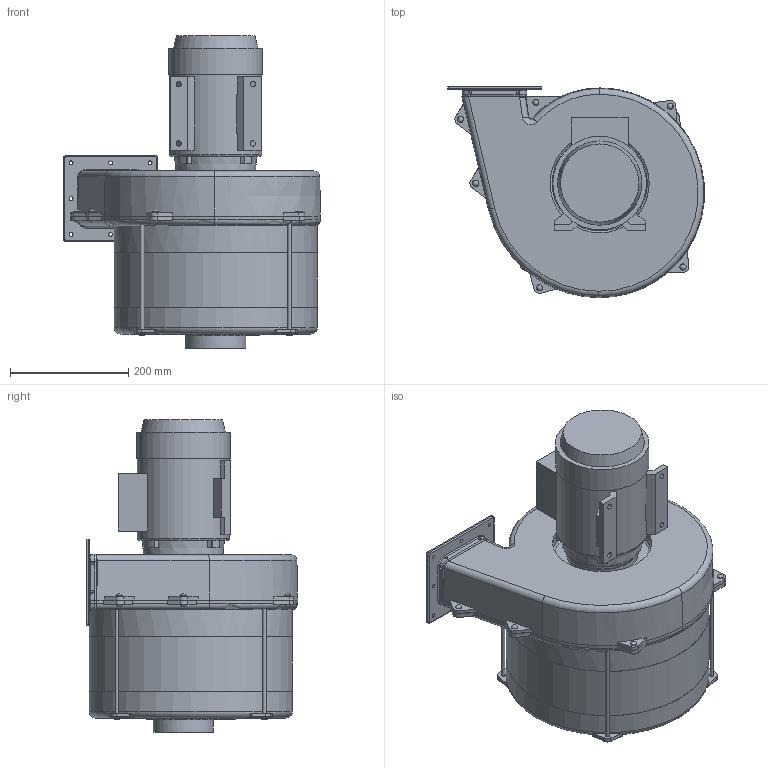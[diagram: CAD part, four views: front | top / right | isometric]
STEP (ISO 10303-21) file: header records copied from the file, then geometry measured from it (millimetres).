
FILE_DESCRIPTION(/* description */ (''),/* implementation_level */ '2;1');
FILE_NAME(/* name */ 'T:\Drawings\Standard Drawings\e-mail\3D18-1261.stp',/* time_stamp */ '2018-02-26T14:44:17+00:00',/* author */ ('mayres'),/* organization */ (''),/* preprocessor_version */ 'ST-DEVELOPER v15.6',/* originating_system */ 'Autodesk Inventor 2015',/* authorisation */ '');
FILE_SCHEMA (('AUTOMOTIVE_DESIGN { 1 0 10303 214 3 1 1 }'));
Length unit declared in the file: centimetre
Products named in the file (1): 3D18-1261
Bounding box: 433.6 x 356.59 x 527.88 mm (x, y, z)
Volume: 8401224.8 mm3; surface area: 1714086.2 mm2
Topology: 25 solids, 25 shells, 630 faces, 1501 edges, 930 vertices
Faces by surface type: plane 264, cylinder 187, cone 59, bspline 50, torus 47, sphere 23
Full cylindrical faces by diameter (mm): 4.917 x4, 5 x12, 6 x14, 6.4 x8, 7 x24, 9 x4, 12.7 x4, 35 x1, 44 x1, 70 x1, 79 x1, 80 x1, 82 x1, 95 x1, 95.2 x2, 101.6 x1, 120 x2, 155 x1, 158 x1, 167.4 x2, 177.6 x1, 333 x3, 333.2 x1, 337.6 x4, 342.9 x1, 343 x2
Entity records: 20701 total; most frequent: CARTESIAN_POINT 6208, DIRECTION 2859, ORIENTED_EDGE 2702, EDGE_CURVE 1339, AXIS2_PLACEMENT_3D 1157, EDGE_LOOP 906, VERTEX_POINT 906, FACE_OUTER_BOUND 630
